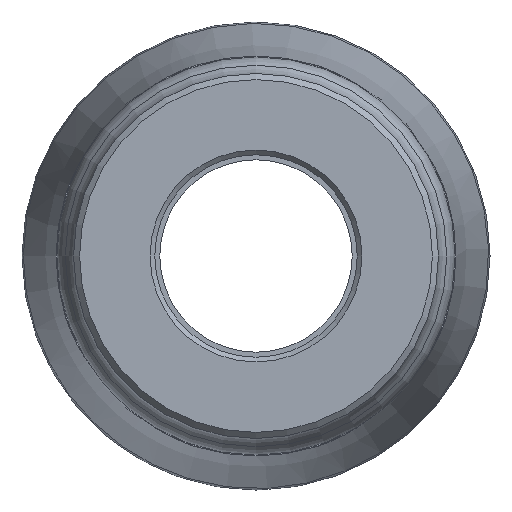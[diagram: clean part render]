
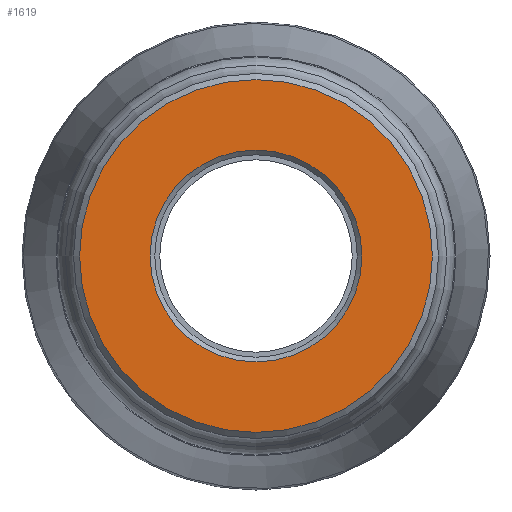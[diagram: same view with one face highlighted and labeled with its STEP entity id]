
A CAD part, left-side view. The second image highlights one B-rep face of the part: STEP entity #1619.
In plain terms, the highlighted planar face has unit normal (-1, 0, 0).
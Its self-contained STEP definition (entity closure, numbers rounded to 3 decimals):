
#29=FACE_BOUND('',#401,.T.);
#212=PLANE('',#1776);
#290=FACE_OUTER_BOUND('',#400,.T.);
#400=EDGE_LOOP('',(#1219));
#401=EDGE_LOOP('',(#1220));
#542=CIRCLE('',#1775,15.846);
#543=CIRCLE('',#1777,26.391);
#728=VERTEX_POINT('',#2870);
#729=VERTEX_POINT('',#2873);
#910=EDGE_CURVE('',#728,#728,#542,.T.);
#911=EDGE_CURVE('',#729,#729,#543,.T.);
#1219=ORIENTED_EDGE('',*,*,#911,.F.);
#1220=ORIENTED_EDGE('',*,*,#910,.F.);
#1619=ADVANCED_FACE('',(#290,#29),#212,.T.);
#1775=AXIS2_PLACEMENT_3D('',#2871,#2067,#2068);
#1776=AXIS2_PLACEMENT_3D('',#2872,#2069,#2070);
#1777=AXIS2_PLACEMENT_3D('',#2874,#2071,#2072);
#2067=DIRECTION('center_axis',(-1.,0.,0.));
#2068=DIRECTION('ref_axis',(0.,-1.,0.));
#2069=DIRECTION('center_axis',(-1.,0.,0.));
#2070=DIRECTION('ref_axis',(0.,0.,1.));
#2071=DIRECTION('center_axis',(1.,0.,0.));
#2072=DIRECTION('ref_axis',(0.,-1.,0.));
#2870=CARTESIAN_POINT('',(0.,15.846,0.));
#2871=CARTESIAN_POINT('Origin',(0.,0.,0.));
#2872=CARTESIAN_POINT('Origin',(0.,27.3,0.));
#2873=CARTESIAN_POINT('',(0.,26.391,0.));
#2874=CARTESIAN_POINT('Origin',(0.,0.,0.));
